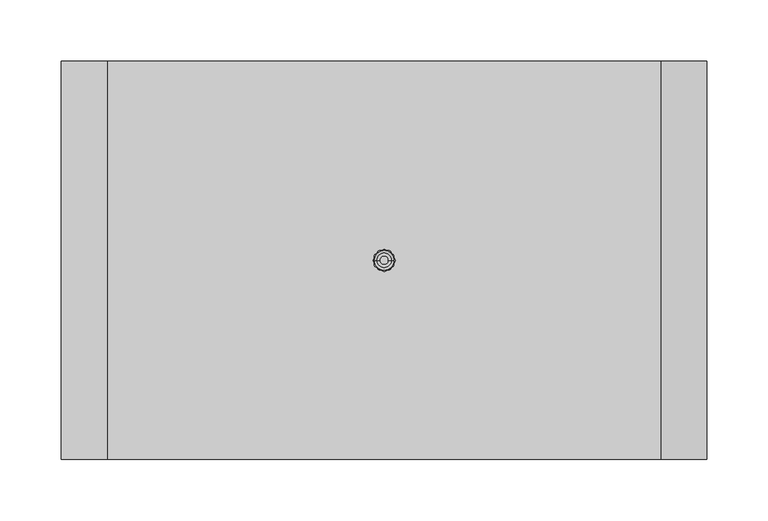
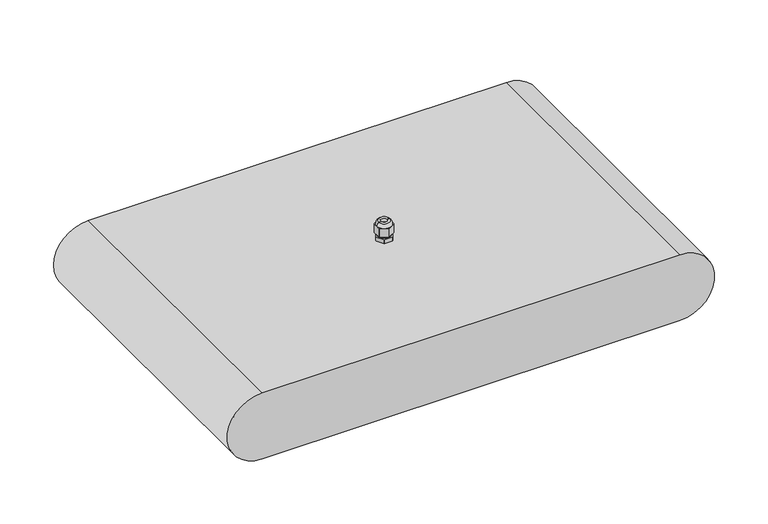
"""IFC4 building model written with IfcOpenShell, lengths in millimetres: light fixture geometry, GENILED_Светильник светодиодный_Element Advanced : Element Advanced 0,5x3 150Вт Линза Ш2."""

from ifc_helpers import new_model, si_unit, point, frame, origin, origin_with_axes, place, context, project, spatial, polyline, circle_curve, ellipse_curve, trimmed, outline, extrude, source, transform, mapped, element, save
from ifc_brep_helpers import plane_surface, cylinder_surface, revolved_surface, advanced_brep


def light_fixture_fca84b41(model_context):
    return source(origin(), model_context, "Body", "SolidModel", [
        advanced_brep(
        [(5.85, 0.0, 95.0120269), (-5.85, 0.0, 95.0120269), (-3.5, 0.0, 95.0120269), (3.5, 0.0, 95.0120269), (8.0, 0.0, 91.0120269), (4.0, 6.9282032, 91.0120269), (-4.0, 6.9282032, 91.0120269), (-8.0, 0.0, 91.0120269), (-4.0, -6.9282032, 91.0120269), (4.0, -6.9282032, 91.0120269), (-3.5, 0.0, 91.0120269), (3.5, 0.0, 91.0120269), (8.0, 4.1231056, 91.0120269), (7.5707142, 4.8666504, 91.0120269), (0.4292858, 8.989756, 91.0120269), (-0.4292858, 8.989756, 91.0120269), (-7.5707142, 4.8666504, 91.0120269), (-8.0, 4.1231056, 91.0120269), (-8.0, -4.1231056, 91.0120269), (-7.5707142, -4.8666504, 91.0120269), (-0.4292858, -8.989756, 91.0120269), (0.4292858, -8.989756, 91.0120269), (7.5707142, -4.8666504, 91.0120269), (8.0, -4.1231056, 91.0120269), (0.4292858, 8.989756, 81.6), (7.5707142, 4.8666504, 81.6), (8.0, 4.1231056, 81.6), (8.0, -4.1231056, 81.6), (7.5707142, -4.8666504, 81.6), (0.4292858, -8.989756, 81.6), (-0.4292858, -8.989756, 81.6), (-7.5707142, -4.8666504, 81.6), (-8.0, -4.1231056, 81.6), (-8.0, 4.1231056, 81.6), (-7.5707142, 4.8666504, 81.6), (-0.4292858, 8.989756, 81.6), (-7.25, 0.0, 81.6), (7.25, 0.0, 81.6), (-7.25, 0.0, 79.6), (7.25, 0.0, 79.6), (-8.989756, -0.4292858, 79.6), (-4.8666504, -7.5707142, 79.6), (-4.1231056, -8.0, 79.6), (4.1231056, -8.0, 79.6), (4.8666504, -7.5707142, 79.6), (8.989756, -0.4292858, 79.6), (9.0, 0.0, 79.6), (8.989756, 0.4292858, 79.6), (4.8666504, 7.5707142, 79.6), (4.1231056, 8.0, 79.6), (-4.1231056, 8.0, 79.6), (-4.8666504, 7.5707142, 79.6), (-8.989756, 0.4292858, 79.6), (-9.0, 0.0, 79.6), (-8.989756, 0.4292858, 75.0), (-4.8666504, 7.5707142, 75.0), (-4.1231056, 8.0, 75.0), (4.1231056, 8.0, 75.0), (4.8666504, 7.5707142, 75.0), (8.989756, 0.4292858, 75.0), (9.0, 0.0, 75.0), (8.989756, -0.4292858, 75.0), (4.8666504, -7.5707142, 75.0), (4.1231056, -8.0, 75.0), (-4.1231056, -8.0, 75.0), (-4.8666504, -7.5707142, 75.0), (-8.989756, -0.4292858, 75.0), (-9.0, 0.0, 75.0)],
        [
            (0, 1, circle_curve(frame((0.0, 0.0, 95.0120269), z_axis=(0.0, 0.0, 1.0), x_axis=(-1.0, 0.0, 0.0)), 5.85)),
            (1, 2),
            (2, 3, circle_curve(frame((0.0, 0.0, 95.0120269), z_axis=(0.0, 0.0, -1.0), x_axis=(-1.0, 0.0, 0.0)), 3.5)),
            (3, 0),
            (1, 0, circle_curve(frame((0.0, 0.0, 95.0120269), z_axis=(0.0, 0.0, 1.0), x_axis=(-1.0, 0.0, 0.0)), 5.85)),
            (3, 2, circle_curve(frame((0.0, 0.0, 95.0120269), z_axis=(0.0, 0.0, -1.0), x_axis=(-1.0, 0.0, 0.0)), 3.5)),
            (0, 4, circle_curve(frame((2.4876149, 0.0, 90.6269324), z_axis=(0.0, 1.0, 0.0), x_axis=(-1.0, 0.0, 0.0)), 5.5258201)),
            (4, 5, circle_curve(frame((0.0, 0.0, 91.0120269), z_axis=(0.0, 0.0, 1.0), x_axis=(-1.0, 0.0, 0.0)), 8.0)),
            (5, 6, circle_curve(frame((0.0, 0.0, 91.0120269), z_axis=(0.0, 0.0, 1.0), x_axis=(-1.0, 0.0, 0.0)), 8.0)),
            (6, 7, circle_curve(frame((0.0, 0.0, 91.0120269), z_axis=(0.0, 0.0, 1.0), x_axis=(-1.0, 0.0, 0.0)), 8.0)),
            (7, 1, circle_curve(frame((-2.4876149, 0.0, 90.6269324), z_axis=(0.0, 1.0, 0.0), x_axis=(1.0, 0.0, 0.0)), 5.5258201)),
            (7, 8, circle_curve(frame((0.0, 0.0, 91.0120269), z_axis=(0.0, 0.0, 1.0), x_axis=(-1.0, 0.0, 0.0)), 8.0)),
            (8, 9, circle_curve(frame((0.0, 0.0, 91.0120269), z_axis=(0.0, 0.0, 1.0), x_axis=(-1.0, 0.0, 0.0)), 8.0)),
            (9, 4, circle_curve(frame((0.0, 0.0, 91.0120269), z_axis=(0.0, 0.0, 1.0), x_axis=(-1.0, 0.0, 0.0)), 8.0)),
            (2, 10),
            (10, 11, circle_curve(frame((0.0, 0.0, 91.0120269), z_axis=(0.0, 0.0, -1.0), x_axis=(-1.0, 0.0, 0.0)), 3.5)),
            (11, 3),
            (11, 10, circle_curve(frame((0.0, 0.0, 91.0120269), z_axis=(0.0, 0.0, -1.0), x_axis=(-1.0, 0.0, 0.0)), 3.5)),
            (4, 12),
            (12, 13, circle_curve(frame((0.0, 0.0, 91.0120269), z_axis=(0.0, 0.0, 1.0), x_axis=(1.0, 0.0, 0.0)), 9.0)),
            (13, 5),
            (5, 14),
            (14, 15, circle_curve(frame((0.0, 0.0, 91.0120269), z_axis=(0.0, 0.0, 1.0), x_axis=(1.0, 0.0, 0.0)), 9.0)),
            (15, 6),
            (6, 16),
            (16, 17, circle_curve(frame((0.0, 0.0, 91.0120269), z_axis=(0.0, 0.0, 1.0), x_axis=(1.0, 0.0, 0.0)), 9.0)),
            (17, 7),
            (7, 18),
            (18, 19, circle_curve(frame((0.0, 0.0, 91.0120269), z_axis=(0.0, 0.0, 1.0), x_axis=(1.0, 0.0, 0.0)), 9.0)),
            (19, 8),
            (8, 20),
            (20, 21, circle_curve(frame((0.0, 0.0, 91.0120269), z_axis=(0.0, 0.0, 1.0), x_axis=(1.0, 0.0, 0.0)), 9.0)),
            (21, 9),
            (9, 22),
            (22, 23, circle_curve(frame((0.0, 0.0, 91.0120269), z_axis=(0.0, 0.0, 1.0), x_axis=(1.0, 0.0, 0.0)), 9.0)),
            (23, 4),
            (24, 25),
            (25, 26, circle_curve(frame((0.0, 0.0, 81.6), z_axis=(0.0, 0.0, -1.0), x_axis=(1.0, 0.0, 0.0)), 9.0)),
            (26, 27),
            (27, 28, circle_curve(frame((0.0, 0.0, 81.6), z_axis=(0.0, 0.0, -1.0), x_axis=(1.0, 0.0, 0.0)), 9.0)),
            (28, 29),
            (29, 30, circle_curve(frame((0.0, 0.0, 81.6), z_axis=(0.0, 0.0, -1.0), x_axis=(1.0, 0.0, 0.0)), 9.0)),
            (30, 31),
            (31, 32, circle_curve(frame((0.0, 0.0, 81.6), z_axis=(0.0, 0.0, -1.0), x_axis=(1.0, 0.0, 0.0)), 9.0)),
            (32, 33),
            (33, 34, circle_curve(frame((0.0, 0.0, 81.6), z_axis=(0.0, 0.0, -1.0), x_axis=(1.0, 0.0, 0.0)), 9.0)),
            (34, 35),
            (35, 24, circle_curve(frame((0.0, 0.0, 81.6), z_axis=(0.0, 0.0, -1.0), x_axis=(1.0, 0.0, 0.0)), 9.0)),
            (36, 37, circle_curve(frame((0.0, 0.0, 81.6), z_axis=(0.0, 0.0, 1.0), x_axis=(1.0, 0.0, 0.0)), 7.25)),
            (37, 36, circle_curve(frame((0.0, 0.0, 81.6), z_axis=(0.0, 0.0, 1.0), x_axis=(1.0, 0.0, 0.0)), 7.25)),
            (15, 35),
            (34, 16),
            (17, 33),
            (32, 18),
            (19, 31),
            (30, 20),
            (21, 29),
            (28, 22),
            (23, 27),
            (26, 12),
            (13, 25),
            (24, 14),
            (36, 38),
            (38, 39, circle_curve(frame((0.0, 0.0, 79.6), z_axis=(0.0, 0.0, 1.0), x_axis=(1.0, 0.0, 0.0)), 7.25)),
            (39, 37),
            (39, 38, circle_curve(frame((0.0, 0.0, 79.6), z_axis=(0.0, 0.0, 1.0), x_axis=(1.0, 0.0, 0.0)), 7.25)),
            (40, 41),
            (41, 42, circle_curve(frame((0.0, 0.0, 79.6), z_axis=(0.0, 0.0, 1.0), x_axis=(1.0, 0.0, 0.0)), 9.0)),
            (42, 43),
            (43, 44, circle_curve(frame((0.0, 0.0, 79.6), z_axis=(0.0, 0.0, 1.0), x_axis=(1.0, 0.0, 0.0)), 9.0)),
            (44, 45),
            (45, 46, circle_curve(frame((0.0, 0.0, 79.6), z_axis=(0.0, 0.0, 1.0), x_axis=(1.0, 0.0, 0.0)), 9.0)),
            (46, 47, circle_curve(frame((0.0, 0.0, 79.6), z_axis=(0.0, 0.0, 1.0), x_axis=(1.0, 0.0, 0.0)), 9.0)),
            (47, 48),
            (48, 49, circle_curve(frame((0.0, 0.0, 79.6), z_axis=(0.0, 0.0, 1.0), x_axis=(1.0, 0.0, 0.0)), 9.0)),
            (49, 50),
            (50, 51, circle_curve(frame((0.0, 0.0, 79.6), z_axis=(0.0, 0.0, 1.0), x_axis=(1.0, 0.0, 0.0)), 9.0)),
            (51, 52),
            (52, 53, circle_curve(frame((0.0, 0.0, 79.6), z_axis=(0.0, 0.0, 1.0), x_axis=(1.0, 0.0, 0.0)), 9.0)),
            (53, 40, circle_curve(frame((0.0, 0.0, 79.6), z_axis=(0.0, 0.0, 1.0), x_axis=(1.0, 0.0, 0.0)), 9.0)),
            (54, 55),
            (55, 56, circle_curve(frame((0.0, 0.0, 75.0), z_axis=(0.0, 0.0, -1.0), x_axis=(1.0, 0.0, 0.0)), 9.0)),
            (56, 57),
            (57, 58, circle_curve(frame((0.0, 0.0, 75.0), z_axis=(0.0, 0.0, -1.0), x_axis=(1.0, 0.0, 0.0)), 9.0)),
            (58, 59),
            (59, 60, circle_curve(frame((0.0, 0.0, 75.0), z_axis=(0.0, 0.0, -1.0), x_axis=(1.0, 0.0, 0.0)), 9.0)),
            (60, 61, circle_curve(frame((0.0, 0.0, 75.0), z_axis=(0.0, 0.0, -1.0), x_axis=(1.0, 0.0, 0.0)), 9.0)),
            (61, 62),
            (62, 63, circle_curve(frame((0.0, 0.0, 75.0), z_axis=(0.0, 0.0, -1.0), x_axis=(1.0, 0.0, 0.0)), 9.0)),
            (63, 64),
            (64, 65, circle_curve(frame((0.0, 0.0, 75.0), z_axis=(0.0, 0.0, -1.0), x_axis=(1.0, 0.0, 0.0)), 9.0)),
            (65, 66),
            (66, 67, circle_curve(frame((0.0, 0.0, 75.0), z_axis=(0.0, 0.0, -1.0), x_axis=(1.0, 0.0, 0.0)), 9.0)),
            (67, 54, circle_curve(frame((0.0, 0.0, 75.0), z_axis=(0.0, 0.0, -1.0), x_axis=(1.0, 0.0, 0.0)), 9.0)),
            (40, 66),
            (65, 41),
            (42, 64),
            (63, 43),
            (44, 62),
            (61, 45),
            (47, 59),
            (58, 48),
            (49, 57),
            (56, 50),
            (51, 55),
            (54, 52),
            (67, 53),
            (46, 60),
        ],
        [
            plane_surface(frame((0.0, 0.0, 95.0120269), z_axis=(0.0, 0.0, 1.0), x_axis=(-1.0, 0.0, 0.0))),
            revolved_surface(trimmed(ellipse_curve(frame((-2.4876149, 0.0, 90.6269324), z_axis=(0.0, -1.0, 0.0), x_axis=(1.0, 0.0, 0.0)), 5.5258201, 5.5258201), [point((-5.85, 0.0, 95.0120269))], [point((-8.0, 0.0, 91.0120269))], True, "CARTESIAN"), (0.0, 0.0, 91.0120269), (0.0, 0.0, -1.0)),
            revolved_surface(polyline([(-3.5, 0.0, 91.0120269), (-3.5, 0.0, 95.0120269)]), (0.0, 0.0, 91.0120269), (0.0, 0.0, -1.0)),
            plane_surface(frame((0.0, 9.2376043, 91.0120269), z_axis=(0.0, 0.0, 1.0000000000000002), x_axis=(-0.8660254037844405, -0.49999999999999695, 0.0))),
            plane_surface(frame((0.0, 9.2376043, 81.6), z_axis=(0.0, 0.0, -1.0000000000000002), x_axis=(0.8660254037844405, 0.49999999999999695, 0.0))),
            plane_surface(frame((0.0, 9.2376043, 91.0120269), z_axis=(-0.49999999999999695, 0.8660254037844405, 0.0), x_axis=(0.0, 0.0, -1.0))),
            plane_surface(frame((-8.0, 4.6188022, 91.0120269), z_axis=(-1.0, 0.0, 0.0), x_axis=(0.0, 0.0, -1.0))),
            plane_surface(frame((-8.0, -4.6188022, 91.0120269), z_axis=(-0.5000000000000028, -0.8660254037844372, 0.0), x_axis=(0.0, 0.0, -1.0))),
            plane_surface(frame((0.0, -9.2376043, 91.0120269), z_axis=(0.49999999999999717, -0.8660254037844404, 0.0), x_axis=(0.0, 0.0, -1.0))),
            plane_surface(frame((8.0, -4.6188022, 91.0120269), z_axis=(1.0, 0.0, 0.0), x_axis=(0.0, 0.0, -1.0))),
            plane_surface(frame((8.0, 4.6188022, 91.0120269), z_axis=(0.5000000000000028, 0.8660254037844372, 0.0), x_axis=(0.0, 0.0, -1.0))),
            cylinder_surface(frame((0.0, 0.0, 79.6), z_axis=(0.0, 0.0, 1.0), x_axis=(1.0, 0.0, 0.0)), 7.25),
            plane_surface(frame((-9.2376043, 0.0, 79.6), z_axis=(0.0, 0.0, 1.0), x_axis=(0.5000000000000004, -0.8660254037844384, 0.0))),
            plane_surface(frame((-9.2376043, 0.0, 75.0), z_axis=(0.0, 0.0, -1.0), x_axis=(-0.5000000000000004, 0.8660254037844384, 0.0))),
            plane_surface(frame((-9.2376043, 0.0, 79.6), z_axis=(-0.8660254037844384, -0.5000000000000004, 0.0), x_axis=(0.0, 0.0, -1.0))),
            plane_surface(frame((-4.6188022, -8.0, 79.6), z_axis=(0.0, -1.0, 0.0), x_axis=(0.0, 0.0, -1.0))),
            plane_surface(frame((4.6188022, -8.0, 79.6), z_axis=(0.866025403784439, -0.49999999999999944, 0.0), x_axis=(0.0, 0.0, -1.0))),
            plane_surface(frame((9.2376043, 0.0, 79.6), z_axis=(0.8660254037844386, 0.5000000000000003, 0.0), x_axis=(0.0, 0.0, -1.0))),
            plane_surface(frame((4.6188022, 8.0, 79.6), z_axis=(0.0, 1.0, 0.0), x_axis=(0.0, 0.0, -1.0))),
            plane_surface(frame((-4.6188022, 8.0, 79.6), z_axis=(-0.8660254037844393, 0.49999999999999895, 0.0), x_axis=(0.0, 0.0, -1.0))),
            cylinder_surface(frame((0.0, 0.0, 75.0), z_axis=(0.0, 0.0, -1.0), x_axis=(1.0, 0.0, 0.0)), 9.0),
        ],
        [
            (0, [[1, 2, 3, 4]]),
            (0, [[-2, 5, -4, 6]]),
            (1, [[-1, 7, 8, 9, 10, 11]]),
            (1, [[-5, -11, 12, 13, 14, -7]]),
            (2, [[-3, 15, 16, 17]]),
            (2, [[-6, -17, 18, -15]]),
            (3, [[-8, 19, 20, 21]]),
            (3, [[-9, 22, 23, 24]]),
            (3, [[-10, 25, 26, 27]]),
            (3, [[-12, 28, 29, 30]]),
            (3, [[-13, 31, 32, 33]]),
            (3, [[-14, 34, 35, 36]]),
            (3, [[-16, -18]]),
            (4, [[37, 38, 39, 40, 41, 42, 43, 44, 45, 46, 47, 48], [49, 50]]),
            (5, [[-25, -24, 51, -47, 52]]),
            (6, [[-27, 53, -45, 54, -28]]),
            (7, [[-30, 55, -43, 56, -31]]),
            (8, [[-34, -33, 57, -41, 58]]),
            (9, [[-36, 59, -39, 60, -19]]),
            (10, [[-21, 61, -37, 62, -22]]),
            (11, [[63, 64, 65, -49]]),
            (11, [[-63, -50, -65, 66]]),
            (12, [[67, 68, 69, 70, 71, 72, 73, 74, 75, 76, 77, 78, 79, 80], [-64, -66]]),
            (13, [[81, 82, 83, 84, 85, 86, 87, 88, 89, 90, 91, 92, 93, 94]]),
            (14, [[-67, 95, -92, 96]]),
            (15, [[-69, 97, -90, 98]]),
            (16, [[-71, 99, -88, 100]]),
            (17, [[-74, 101, -85, 102]]),
            (18, [[-76, 103, -83, 104]]),
            (19, [[-78, 105, -81, 106]]),
            (20, [[-20, -60, -38, -61]]),
            (20, [[-23, -62, -48, -51]]),
            (20, [[-26, -52, -46, -53]]),
            (20, [[-75, -102, -84, -103]]),
            (20, [[-77, -104, -82, -105]]),
            (20, [[107, -79, -106, -94]]),
            (20, [[108, -86, -101, -73]]),
            (20, [[-29, -54, -44, -55]]),
            (20, [[-32, -56, -42, -57]]),
            (20, [[-35, -58, -40, -59]]),
            (20, [[-68, -96, -91, -97]]),
            (20, [[-70, -98, -89, -99]]),
            (20, [[-107, -93, -95, -80]]),
            (20, [[-108, -72, -100, -87]]),
        ],
    ),
        advanced_brep(
        [(225.0, -162.0, 75.0), (-225.0, -162.0, 75.0), (-225.0, -162.0, 0.0), (225.0, -162.0, 0.0), (225.0, 162.0, 75.0), (225.0, 162.0, 0.0), (-225.0, 162.0, 0.0), (-225.0, 162.0, 75.0), (-225.0, 152.0, 0.0), (-225.0, -152.0, 0.0), (225.0, -152.0, 0.0), (225.0, 152.0, 0.0), (225.0, 152.0, 2.0), (225.0, -152.0, 2.0), (-225.0, -152.0, 2.0), (-225.0, 152.0, 2.0)],
        [
            (0, 1),
            (1, 2, circle_curve(frame((-225.0, -162.0, 37.5), z_axis=(0.0, -1.0, 0.0), x_axis=(1.0, 0.0, 0.0)), 37.5)),
            (2, 3),
            (3, 0, circle_curve(frame((225.0, -162.0, 37.5), z_axis=(0.0, -1.0, 0.0), x_axis=(1.0, 0.0, 0.0)), 37.5)),
            (4, 5, circle_curve(frame((225.0, 162.0, 37.5), z_axis=(0.0, 1.0, 0.0), x_axis=(1.0, 0.0, 0.0)), 37.5)),
            (5, 6),
            (6, 7, circle_curve(frame((-225.0, 162.0, 37.5), z_axis=(0.0, 1.0, 0.0), x_axis=(1.0, 0.0, 0.0)), 37.5)),
            (7, 4),
            (0, 4),
            (7, 1),
            (6, 8),
            (8, 9),
            (9, 2),
            (9, 10),
            (10, 3),
            (5, 11),
            (11, 8),
            (10, 11),
            (12, 13),
            (13, 14),
            (14, 15),
            (15, 12),
            (15, 8),
            (11, 12),
            (14, 9),
            (13, 10),
        ],
        [
            plane_surface(frame((-225.0, -162.0, 75.0), z_axis=(0.0, -1.0, 0.0), x_axis=(-1.0, 0.0, 0.0))),
            plane_surface(frame((-225.0, 162.0, 75.0), z_axis=(0.0, 1.0, 0.0), x_axis=(1.0, 0.0, 0.0))),
            plane_surface(frame((225.0, -162.0, 75.0), z_axis=(0.0, 0.0, 1.0), x_axis=(0.0, 1.0, 0.0))),
            cylinder_surface(frame((-225.0, 162.0, 37.5), z_axis=(0.0, -1.0, 0.0), x_axis=(1.0, 0.0, 0.0)), 37.5),
            plane_surface(frame((-225.0, -162.0, 0.0), z_axis=(0.0, 0.0, -1.0), x_axis=(0.0, 1.0, 0.0))),
            cylinder_surface(frame((225.0, 162.0, 37.5), z_axis=(0.0, -1.0, 0.0), x_axis=(1.0, 0.0, 0.0)), 37.5),
            plane_surface(frame((-225.0, 152.0, 2.0), z_axis=(0.0, 0.0, -1.0), x_axis=(-1.0, 0.0, 0.0))),
            plane_surface(frame((225.0, 152.0, 2.0), z_axis=(0.0, -1.0, 0.0), x_axis=(0.0, 0.0, -1.0))),
            plane_surface(frame((-225.0, 152.0, 2.0), z_axis=(1.0, 0.0, 0.0), x_axis=(0.0, 0.0, -1.0))),
            plane_surface(frame((-225.0, -152.0, 2.0), z_axis=(0.0, 1.0, 0.0), x_axis=(0.0, 0.0, -1.0))),
            plane_surface(frame((225.0, -152.0, 2.0), z_axis=(-1.0, 0.0, 0.0), x_axis=(0.0, 0.0, -1.0))),
        ],
        [
            (0, [[1, 2, 3, 4]]),
            (1, [[5, 6, 7, 8]]),
            (2, [[-1, 9, -8, 10]]),
            (3, [[-2, -10, -7, 11, 12, 13]]),
            (4, [[-3, -13, 14, 15]]),
            (4, [[-6, 16, 17, -11]]),
            (5, [[-4, -15, 18, -16, -5, -9]]),
            (6, [[19, 20, 21, 22]]),
            (7, [[-22, 23, -17, 24]]),
            (8, [[-21, 25, -12, -23]]),
            (9, [[-20, 26, -14, -25]]),
            (10, [[-19, -24, -18, -26]]),
        ],
    ),
        extrude(outline(polyline([(225.0, 152.0), (225.0, -152.0), (-225.0, -152.0), (-225.0, 152.0), (225.0, 152.0)])), origin_with_axes(), (0.0, 0.0, 1.0), 2.0),
    ])


if __name__ == "__main__":
    model = new_model("IFC4")
    model_context = context("Model", 3, world=origin())
    ifc_project = project(units=[si_unit("LENGTHUNIT", "METRE", prefix="MILLI")], contexts=[model_context])
    site = spatial("IfcSite", under=ifc_project)
    building = spatial("IfcBuilding", under=site)
    placement = place(None, origin())
    light_fixture_shape = light_fixture_fca84b41(model_context)
    element("IfcLightFixture", 1, ObjectType="GENILED_Светильник светодиодный_Element Advanced : Element Advanced 0,5x3 150Вт Линза Ш2", at=placement, inside=building, context=model_context, shape_type="MappedRepresentation", body=[
        mapped(light_fixture_shape, transform((0.0, 0.0, 0.0), x_axis=(1.0, 0.0, 0.0), y_axis=(0.0, 1.0, 0.0), z_axis=(0.0, 0.0, 1.0))),
    ])
    save(model, "model.ifc")
